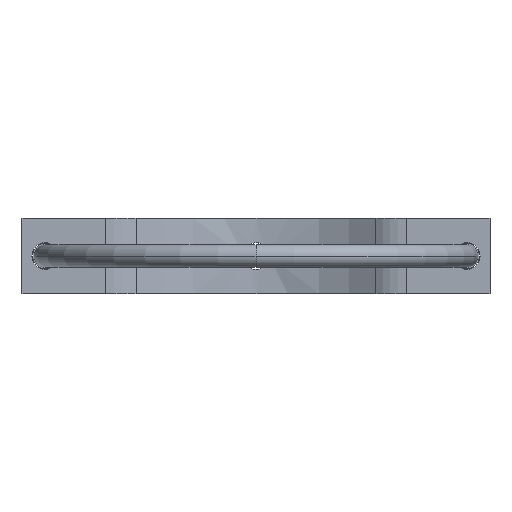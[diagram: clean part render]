
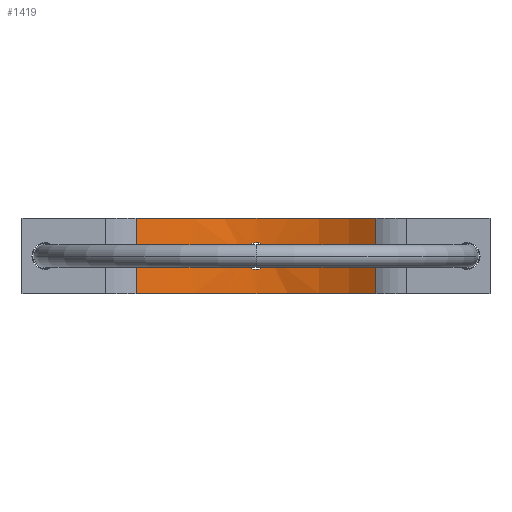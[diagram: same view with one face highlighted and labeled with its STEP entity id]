
A CAD part, front view. The second image highlights one B-rep face of the part: STEP entity #1419.
In plain terms, the highlighted cylindrical face has radius 78.5 mm (diameter 157 mm), a partial arc.
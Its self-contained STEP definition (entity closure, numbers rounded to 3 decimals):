
#640=CARTESIAN_POINT('',(0.,21.786,-15.));
#641=DIRECTION('',(0.,0.,1.));
#642=DIRECTION('',(0.604,0.797,0.));
#643=AXIS2_PLACEMENT_3D('',#640,#641,#642);
#729=DIRECTION('',(0.,0.,1.));
#730=VECTOR('',#729,30.);
#731=CARTESIAN_POINT('',(-47.417,84.347,-15.));
#732=LINE('',#731,#730);
#813=CARTESIAN_POINT('',(0.,21.786,15.));
#814=DIRECTION('',(0.,0.,-1.));
#815=DIRECTION('',(-0.604,0.797,0.));
#816=AXIS2_PLACEMENT_3D('',#813,#814,#815);
#979=DIRECTION('',(0.,0.,1.));
#980=VECTOR('',#979,30.);
#981=CARTESIAN_POINT('',(47.417,84.347,-15.));
#982=LINE('',#981,#980);
#986=CARTESIAN_POINT('',(0.,100.286,-5.25));
#987=CARTESIAN_POINT('',(-0.432,100.286,-5.25));
#988=CARTESIAN_POINT('',(-1.266,100.279,-5.142));
#989=CARTESIAN_POINT('',(-2.457,100.251,-4.691));
#990=CARTESIAN_POINT('',(-3.509,100.21,-3.974));
#991=CARTESIAN_POINT('',(-4.35,100.167,-3.028));
#992=CARTESIAN_POINT('',(-4.95,100.131,-1.886));
#993=CARTESIAN_POINT('',(-5.262,100.11,
-0.636));
#994=CARTESIAN_POINT('',(-5.264,100.11,0.623));
#995=CARTESIAN_POINT('',(-4.954,100.13,1.877));
#996=CARTESIAN_POINT('',(-4.353,100.167,3.024));
#997=CARTESIAN_POINT('',(-3.508,100.21,3.975));
#998=CARTESIAN_POINT('',(-2.447,100.251,4.694));
#999=CARTESIAN_POINT('',(-1.251,100.28,5.144));
#1000=CARTESIAN_POINT('',(-0.425,100.286,
5.25));
#1001=CARTESIAN_POINT('',(0.,100.286,
5.25));
#1006=CARTESIAN_POINT('',(0.,100.286,
5.25));
#1007=CARTESIAN_POINT('',(0.426,100.286,5.25));
#1008=CARTESIAN_POINT('',(1.252,100.28,5.146));
#1009=CARTESIAN_POINT('',(2.434,100.251,4.703));
#1010=CARTESIAN_POINT('',(3.491,100.211,3.989));
#1011=CARTESIAN_POINT('',(4.33,100.168,3.054));
#1012=CARTESIAN_POINT('',(4.945,100.131,1.904));
#1013=CARTESIAN_POINT('',(5.261,100.11,0.652));
#1014=CARTESIAN_POINT('',(5.265,100.11,
-0.598));
#1015=CARTESIAN_POINT('',(4.958,100.13,-1.853));
#1016=CARTESIAN_POINT('',(4.355,100.167,-3.016));
#1017=CARTESIAN_POINT('',(3.512,100.21,-3.974));
#1018=CARTESIAN_POINT('',(2.455,100.251,-4.695));
#1019=CARTESIAN_POINT('',(1.262,100.279,-5.144));
#1020=CARTESIAN_POINT('',(0.43,100.286,-5.25));
#1021=CARTESIAN_POINT('',(0.,100.286,-5.25));
#1084=CARTESIAN_POINT('',(47.417,84.347,-15.));
#1085=CARTESIAN_POINT('',(-47.417,84.347,-15.));
#1086=VERTEX_POINT('',#1084);
#1087=VERTEX_POINT('',#1085);
#1088=CARTESIAN_POINT('',(47.417,84.347,15.));
#1089=VERTEX_POINT('',#1088);
#1090=CARTESIAN_POINT('',(-47.417,84.347,15.));
#1091=VERTEX_POINT('',#1090);
#1129=CARTESIAN_POINT('',(0.,100.286,
5.25));
#1131=VERTEX_POINT('',#1129);
#1133=CARTESIAN_POINT('',(0.,100.286,-5.25));
#1135=VERTEX_POINT('',#1133);
#1402=CARTESIAN_POINT('',(0.,21.786,15.));
#1403=DIRECTION('',(0.,0.,-1.));
#1404=DIRECTION('',(-1.,0.,0.));
#1405=AXIS2_PLACEMENT_3D('',#1402,#1403,#1404);
#1406=CYLINDRICAL_SURFACE('',#1405,78.5);
#1407=ORIENTED_EDGE('',*,*,#1173,.T.);
#1408=ORIENTED_EDGE('',*,*,#1207,.T.);
#1409=ORIENTED_EDGE('',*,*,#1268,.T.);
#1410=ORIENTED_EDGE('',*,*,#1395,.F.);
#1411=EDGE_LOOP('',(#1407,#1408,#1409,#1410));
#1412=FACE_OUTER_BOUND('',#1411,.F.);
#1414=ORIENTED_EDGE('',*,*,#1413,.F.);
#1416=ORIENTED_EDGE('',*,*,#1415,.F.);
#1417=EDGE_LOOP('',(#1414,#1416));
#1418=FACE_BOUND('',#1417,.F.);
#644=CIRCLE('',#643,78.5);
#817=CIRCLE('',#816,78.5);
#1002=B_SPLINE_CURVE_WITH_KNOTS('',3,(#986,#987,#988,#989,#990,#991,#992,#993,
#994,#995,#996,#997,#998,#999,#1000,#1001),.UNSPECIFIED.,.F.,.F.,(4,1,1,1,1,1,1,
1,1,1,1,1,1,4),(0.,0.077,0.154,0.231,
0.308,0.385,0.462,0.538,
0.615,0.692,0.769,0.846,
0.923,1.),.UNSPECIFIED.);
#1022=B_SPLINE_CURVE_WITH_KNOTS('',3,(#1006,#1007,#1008,#1009,#1010,#1011,#1012,
#1013,#1014,#1015,#1016,#1017,#1018,#1019,#1020,#1021),.UNSPECIFIED.,.F.,.F.,(4,
1,1,1,1,1,1,1,1,1,1,1,1,4),(0.,0.077,0.154,
0.231,0.308,0.385,0.462,
0.538,0.615,0.692,0.769,
0.846,0.923,1.),.UNSPECIFIED.);
#1173=EDGE_CURVE('',#1086,#1087,#644,.T.);
#1207=EDGE_CURVE('',#1087,#1091,#732,.T.);
#1268=EDGE_CURVE('',#1091,#1089,#817,.T.);
#1395=EDGE_CURVE('',#1086,#1089,#982,.T.);
#1413=EDGE_CURVE('',#1135,#1131,#1002,.T.);
#1415=EDGE_CURVE('',#1131,#1135,#1022,.T.);
#1419=ADVANCED_FACE('',(#1412,#1418),#1406,.F.);
